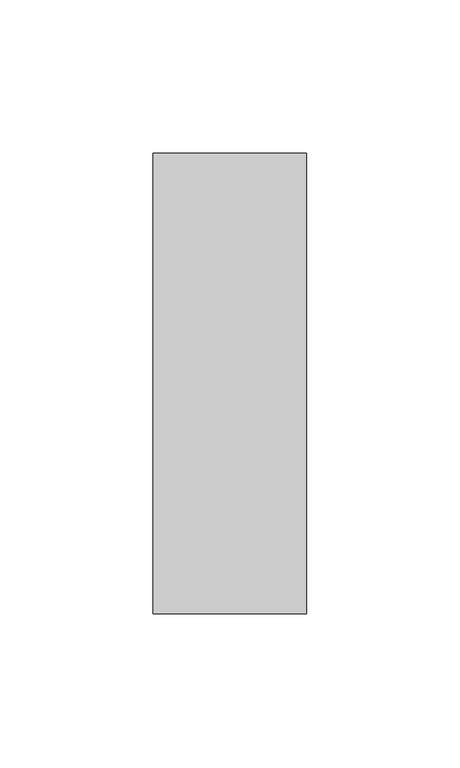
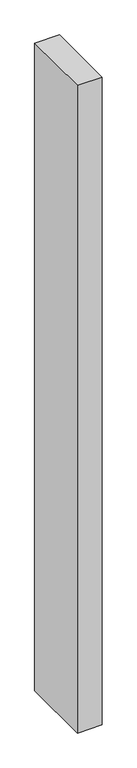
"""IFC4 building model written with IfcOpenShell, lengths in millimetres: member geometry, Прямоугольный импост : 50 x 150 мм."""

from ifc_helpers import new_model, si_unit, frame, origin, place, context, project, spatial, polyline, outline, extrude, source, transform, mapped, element, save


def member_b4f2ec90(model_context):
    return source(origin(), model_context, "Body", "SweptSolid", [
        extrude(outline(polyline([(25.0, 75.0), (25.0, -75.0), (-25.0, -75.0), (-25.0, 75.0), (25.0, 75.0)])), frame((0.0, 0.0, -1391.7705845), z_axis=(0.0, 0.0, 1.0), x_axis=(1.0, 0.0, 0.0)), (0.0, 0.0, 1.0), 1391.7705845),
    ])


if __name__ == "__main__":
    model = new_model("IFC4")
    model_context = context("Model", 3, world=origin())
    ifc_project = project(units=[si_unit("LENGTHUNIT", "METRE", prefix="MILLI")], contexts=[model_context])
    site = spatial("IfcSite", under=ifc_project)
    building = spatial("IfcBuilding", under=site)
    placement = place(None, origin())
    member_shape = member_b4f2ec90(model_context)
    element("IfcMember", 1, ObjectType="Прямоугольный импост : 50 x 150 мм", at=placement, inside=building, context=model_context, shape_type="MappedRepresentation", body=[
        mapped(member_shape, transform((0.0, 0.0, 0.0), x_axis=(1.0, 0.0, 0.0), y_axis=(0.0, 1.0, 0.0), z_axis=(0.0, 0.0, 1.0))),
    ])
    save(model, "model.ifc")
